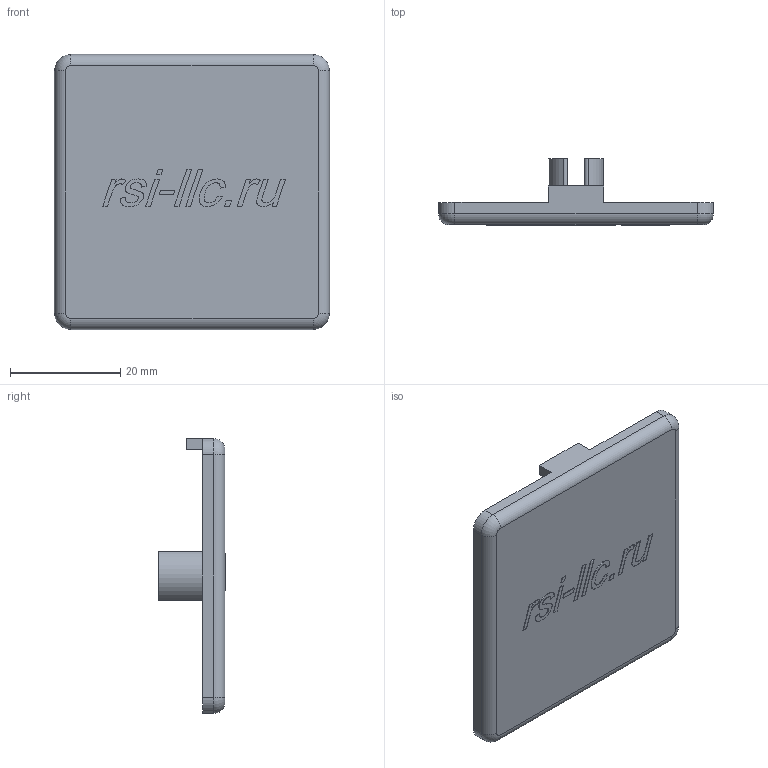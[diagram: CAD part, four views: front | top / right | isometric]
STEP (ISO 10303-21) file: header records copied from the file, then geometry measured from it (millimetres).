
FILE_DESCRIPTION (( 'STEP AP214' ), '1' );
FILE_NAME ('4005.STEP', '2020-10-21T12:26:13', ( '' ), ( '' ), 'SwSTEP 2.0', 'SolidWorks 2018', '' );
FILE_SCHEMA (( 'AUTOMOTIVE_DESIGN' ));
Length unit declared in the file: millimetre
Products named in the file (1): 4005
Bounding box: 50 x 12.1 x 50 mm (x, y, z)
Volume: 5878.5 mm3; surface area: 6450.3 mm2
Topology: 1 solids, 1 shells, 154 faces, 391 edges, 252 vertices
Faces by surface type: plane 78, bspline 32, cylinder 26, torus 18
Entity records: 7415 total; most frequent: CARTESIAN_POINT 2782, ORIENTED_EDGE 782, DIRECTION 653, EDGE_CURVE 391, VERTEX_POINT 252, VECTOR 247, LINE 247, AXIS2_PLACEMENT_3D 203
